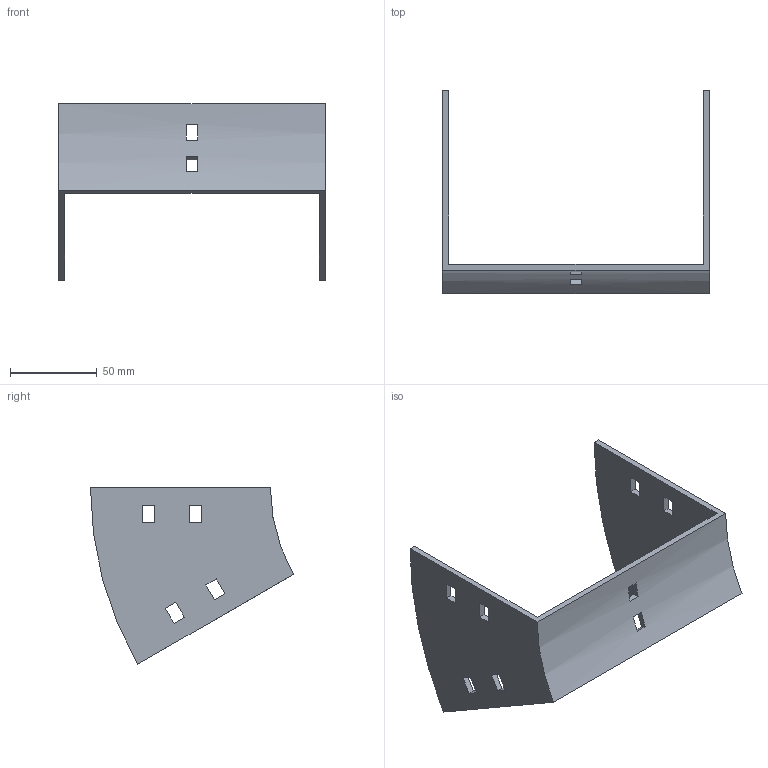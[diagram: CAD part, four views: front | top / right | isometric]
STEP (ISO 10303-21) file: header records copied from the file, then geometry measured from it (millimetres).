
FILE_DESCRIPTION (( 'STEP AP214' ), '1' );
FILE_NAME ('35B1D150.step', '2025-02-21T09:24:22', ( '' ), ( '' ), 'SwSTEP 2.0', 'SolidWorks 2023', '' );
FILE_SCHEMA (( 'AUTOMOTIVE_DESIGN' ));
Length unit declared in the file: millimetre
Products named in the file (1): 35B1D150
Bounding box: 154 x 117.4 x 102 mm (x, y, z)
Volume: 82974.8 mm3; surface area: 51812.5 mm2
Topology: 1 solids, 1 shells, 50 faces, 144 edges, 96 vertices
Faces by surface type: plane 46, cylinder 4
Entity records: 1687 total; most frequent: CARTESIAN_POINT 291, ORIENTED_EDGE 288, DIRECTION 262, EDGE_CURVE 144, VECTOR 128, LINE 128, VERTEX_POINT 96, EDGE_LOOP 70
